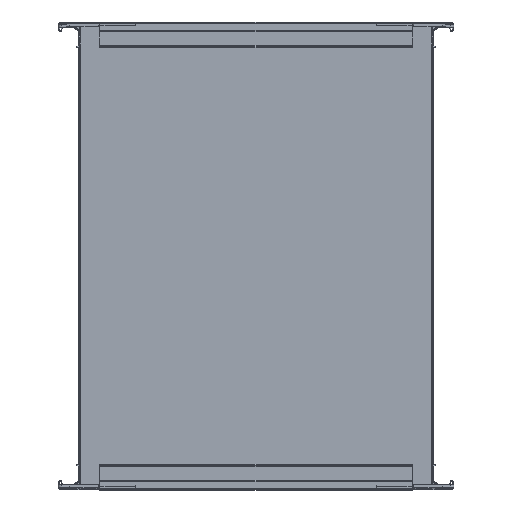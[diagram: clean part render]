
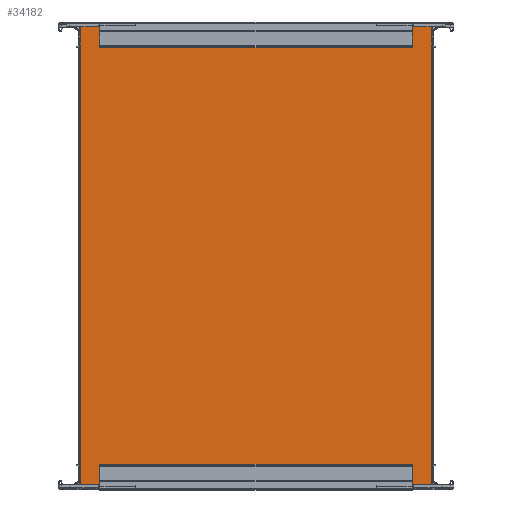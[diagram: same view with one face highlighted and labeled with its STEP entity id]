
A CAD part, top view. The second image highlights one B-rep face of the part: STEP entity #34182.
In plain terms, the highlighted planar face has unit normal (0, 0, 1).
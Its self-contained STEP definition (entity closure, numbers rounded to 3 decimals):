
#3890=FACE_OUTER_BOUND('',#5728,.T.);
#5728=EDGE_LOOP('',(#30114,#30115,#30116,#30117,#30118,#30119,#30120,#30121,
#30122,#30123,#30124,#30125));
#6875=LINE('',#47799,#9906);
#7287=LINE('',#51519,#10318);
#7964=LINE('',#54923,#10995);
#8908=LINE('',#59015,#11939);
#9423=LINE('',#62655,#12454);
#9424=LINE('',#62658,#12455);
#9449=LINE('',#62705,#12480);
#9450=LINE('',#62708,#12481);
#9457=LINE('',#62719,#12488);
#9458=LINE('',#62720,#12489);
#9459=LINE('',#62721,#12490);
#9460=LINE('',#62722,#12491);
#9906=VECTOR('',#37321,10.);
#10318=VECTOR('',#37919,10.);
#10995=VECTOR('',#40048,10.);
#11939=VECTOR('',#42972,10.);
#12454=VECTOR('',#44479,10.);
#12455=VECTOR('',#44482,10.);
#12480=VECTOR('',#44525,10.);
#12481=VECTOR('',#44528,10.);
#12488=VECTOR('',#44541,10.);
#12489=VECTOR('',#44542,10.);
#12490=VECTOR('',#44543,10.);
#12491=VECTOR('',#44544,10.);
#12986=VERTEX_POINT('',#47796);
#12987=VERTEX_POINT('',#47798);
#13479=VERTEX_POINT('',#51500);
#13488=VERTEX_POINT('',#51517);
#13532=VERTEX_POINT('',#51609);
#13697=VERTEX_POINT('',#51946);
#14330=VERTEX_POINT('',#54922);
#15225=VERTEX_POINT('',#59014);
#15644=VERTEX_POINT('',#62653);
#15645=VERTEX_POINT('',#62657);
#15658=VERTEX_POINT('',#62703);
#15659=VERTEX_POINT('',#62707);
#16373=EDGE_CURVE('',#12986,#12987,#6875,.T.);
#17119=EDGE_CURVE('',#13488,#13479,#7287,.T.);
#18272=EDGE_CURVE('',#13532,#14330,#7964,.T.);
#19740=EDGE_CURVE('',#13697,#15225,#8908,.T.);
#20471=EDGE_CURVE('',#15644,#13532,#9423,.T.);
#20472=EDGE_CURVE('',#14330,#15645,#9424,.T.);
#20497=EDGE_CURVE('',#15658,#13697,#9449,.T.);
#20498=EDGE_CURVE('',#15225,#15659,#9450,.T.);
#20505=EDGE_CURVE('',#15659,#13488,#9457,.T.);
#20506=EDGE_CURVE('',#15658,#12987,#9458,.T.);
#20507=EDGE_CURVE('',#15645,#12986,#9459,.T.);
#20508=EDGE_CURVE('',#15644,#13479,#9460,.T.);
#30114=ORIENTED_EDGE('',*,*,#20505,.F.);
#30115=ORIENTED_EDGE('',*,*,#20498,.F.);
#30116=ORIENTED_EDGE('',*,*,#19740,.F.);
#30117=ORIENTED_EDGE('',*,*,#20497,.F.);
#30118=ORIENTED_EDGE('',*,*,#20506,.T.);
#30119=ORIENTED_EDGE('',*,*,#16373,.F.);
#30120=ORIENTED_EDGE('',*,*,#20507,.F.);
#30121=ORIENTED_EDGE('',*,*,#20472,.F.);
#30122=ORIENTED_EDGE('',*,*,#18272,.F.);
#30123=ORIENTED_EDGE('',*,*,#20471,.F.);
#30124=ORIENTED_EDGE('',*,*,#20508,.T.);
#30125=ORIENTED_EDGE('',*,*,#17119,.F.);
#31206=PLANE('',#36661);
#34182=ADVANCED_FACE('',(#3890),#31206,.F.);
#36661=AXIS2_PLACEMENT_3D('',#62718,#44539,#44540);
#37321=DIRECTION('',(0.,-1.,0.));
#37919=DIRECTION('',(0.,1.,0.));
#40048=DIRECTION('',(1.,0.,0.));
#42972=DIRECTION('',(-1.,0.,0.));
#44479=DIRECTION('',(1.,0.,0.));
#44482=DIRECTION('',(1.,0.,0.));
#44525=DIRECTION('',(-1.,0.,0.));
#44528=DIRECTION('',(-1.,0.,0.));
#44539=DIRECTION('center_axis',(0.,0.,-1.));
#44540=DIRECTION('ref_axis',(-1.,0.,0.));
#44541=DIRECTION('',(-1.,0.,0.));
#44542=DIRECTION('',(1.,0.,0.));
#44543=DIRECTION('',(1.,0.,0.));
#44544=DIRECTION('',(-1.,0.,0.));
#47796=CARTESIAN_POINT('',(151.,200.,1.));
#47798=CARTESIAN_POINT('',(151.,-200.,1.));
#47799=CARTESIAN_POINT('',(151.,0.,1.));
#51500=CARTESIAN_POINT('',(-151.,200.,1.));
#51517=CARTESIAN_POINT('',(-151.,-200.,1.));
#51519=CARTESIAN_POINT('',(-151.,0.,1.));
#51609=CARTESIAN_POINT('',(-134.,200.,1.));
#51946=CARTESIAN_POINT('',(134.,-200.,1.));
#54922=CARTESIAN_POINT('',(134.,200.,1.));
#54923=CARTESIAN_POINT('',(-151.,200.,1.));
#59014=CARTESIAN_POINT('',(-134.,-200.,1.));
#59015=CARTESIAN_POINT('',(151.,-200.,1.));
#62653=CARTESIAN_POINT('',(-149.,200.,1.));
#62655=CARTESIAN_POINT('',(-151.,200.,1.));
#62657=CARTESIAN_POINT('',(149.,200.,1.));
#62658=CARTESIAN_POINT('',(-151.,200.,1.));
#62703=CARTESIAN_POINT('',(149.,-200.,1.));
#62705=CARTESIAN_POINT('',(151.,-200.,1.));
#62707=CARTESIAN_POINT('',(-149.,-200.,1.));
#62708=CARTESIAN_POINT('',(151.,-200.,1.));
#62718=CARTESIAN_POINT('Origin',(120.,168.5,1.));
#62719=CARTESIAN_POINT('',(-75.,-200.,1.));
#62720=CARTESIAN_POINT('',(-75.,-200.,1.));
#62721=CARTESIAN_POINT('',(75.,200.,1.));
#62722=CARTESIAN_POINT('',(75.,200.,1.));
